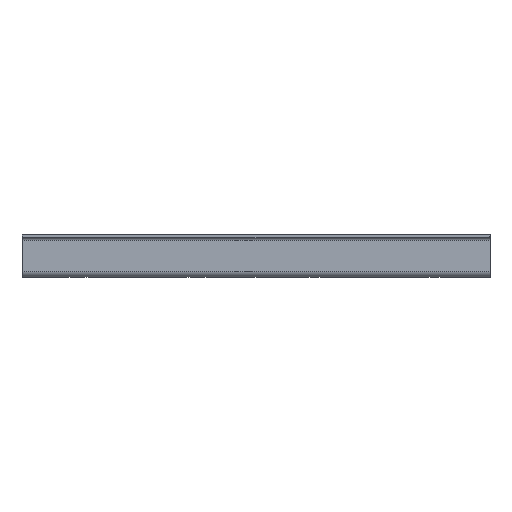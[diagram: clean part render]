
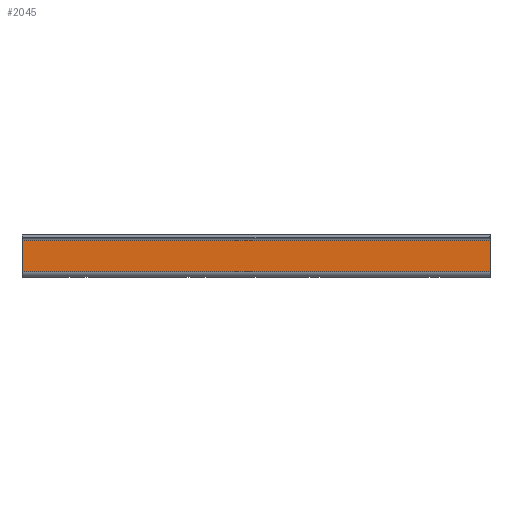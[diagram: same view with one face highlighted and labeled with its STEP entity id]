
A CAD part, front view. The second image highlights one B-rep face of the part: STEP entity #2045.
In plain terms, the highlighted planar face has unit normal (0, -1, 0) as drawn and (0, 1, 0) by its records, which use the part's own axes.
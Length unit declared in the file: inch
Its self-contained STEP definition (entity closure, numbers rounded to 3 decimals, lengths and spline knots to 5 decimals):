
#657=DIRECTION('',(0.,0.,1.));
#658=VECTOR('',#657,0.785);
#659=CARTESIAN_POINT('',(-5.925,0.625,0.07));
#660=LINE('',#659,#658);
#978=DIRECTION('',(-1.,0.,0.));
#979=VECTOR('',#978,11.85);
#980=CARTESIAN_POINT('',(5.925,0.625,0.855));
#981=LINE('',#980,#979);
#985=DIRECTION('',(1.,0.,0.));
#986=VECTOR('',#985,11.85);
#987=CARTESIAN_POINT('',(-5.925,0.625,0.07));
#988=LINE('',#987,#986);
#999=DIRECTION('',(0.,0.,1.));
#1000=VECTOR('',#999,0.785);
#1001=CARTESIAN_POINT('',(5.925,0.625,0.07));
#1002=LINE('',#1001,#1000);
#1049=CARTESIAN_POINT('',(-5.925,0.625,0.07));
#1051=VERTEX_POINT('',#1049);
#1053=CARTESIAN_POINT('',(5.925,0.625,0.07));
#1055=VERTEX_POINT('',#1053);
#1072=CARTESIAN_POINT('',(-5.925,0.625,0.855));
#1073=VERTEX_POINT('',#1072);
#1074=CARTESIAN_POINT('',(5.925,0.625,0.855));
#1075=VERTEX_POINT('',#1074);
#2033=CARTESIAN_POINT('',(-5.925,0.625,0.07));
#2034=DIRECTION('',(0.,1.,0.));
#2035=DIRECTION('',(0.,0.,1.));
#2036=AXIS2_PLACEMENT_3D('',#2033,#2034,#2035);
#2037=PLANE('',#2036);
#2038=ORIENTED_EDGE('',*,*,#2028,.T.);
#2039=ORIENTED_EDGE('',*,*,#1753,.F.);
#2040=ORIENTED_EDGE('',*,*,#1723,.T.);
#2042=ORIENTED_EDGE('',*,*,#2041,.T.);
#2043=EDGE_LOOP('',(#2038,#2039,#2040,#2042));
#2044=FACE_OUTER_BOUND('',#2043,.F.);
#1723=EDGE_CURVE('',#1051,#1055,#988,.T.);
#1753=EDGE_CURVE('',#1051,#1073,#660,.T.);
#2028=EDGE_CURVE('',#1075,#1073,#981,.T.);
#2041=EDGE_CURVE('',#1055,#1075,#1002,.T.);
#2045=ADVANCED_FACE('',(#2044),#2037,.T.);
